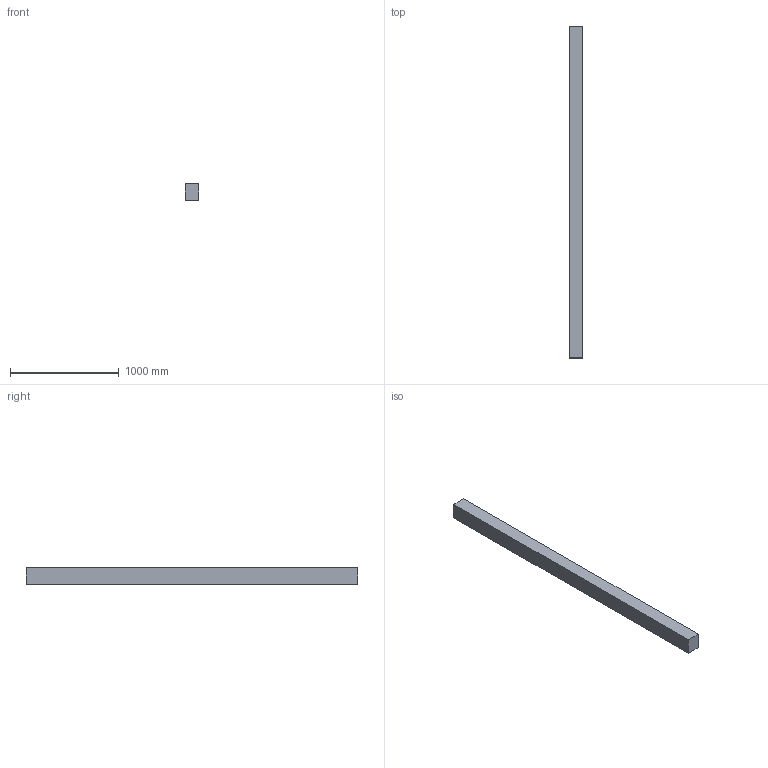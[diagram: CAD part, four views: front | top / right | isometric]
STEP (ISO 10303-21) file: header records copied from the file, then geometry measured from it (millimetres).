
FILE_DESCRIPTION(/* description */ (''),/* implementation_level */ '2;1');
FILE_NAME(/* name */ '5x6x120',/* time_stamp */ '2024-09-20T11:46:42-05:00',/* author */ (''),/* organization */ (''),/* preprocessor_version */ 'ST-DEVELOPER v19.2',/* originating_system */ 'Rhino 8.5',/* authorisation */ '');
FILE_SCHEMA (('CONFIG_CONTROL_DESIGN'));
Length unit declared in the file: inch
Products named in the file (1): Document
Bounding box: 127 x 3048 x 152.4 mm (x, y, z)
Volume: 58993430.4 mm3; surface area: 1741932 mm2
Topology: 1 solids, 1 shells, 6 faces, 12 edges, 8 vertices
Faces by surface type: plane 6
Entity records: 226 total; most frequent: CARTESIAN_POINT 40, ORIENTED_EDGE 24, EDGE_CURVE 12, B_SPLINE_CURVE_WITH_KNOTS 12, DIRECTION 10, VERTEX_POINT 8, AXIS2_PLACEMENT_3D 8, ORGANIZATION 7
